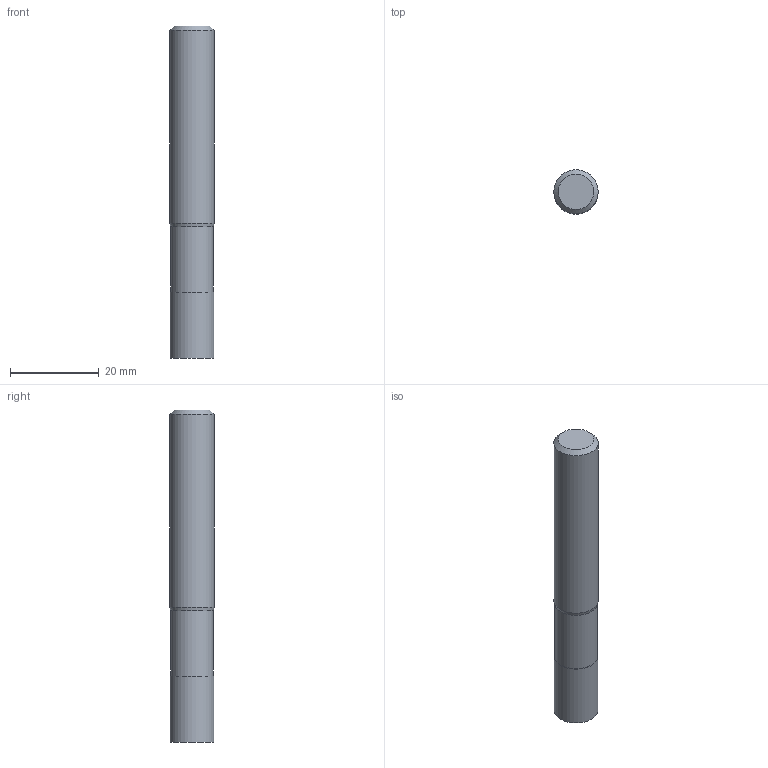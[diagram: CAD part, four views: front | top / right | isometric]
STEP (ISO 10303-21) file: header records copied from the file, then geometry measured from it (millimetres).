
FILE_DESCRIPTION((''),'2;1');
FILE_NAME('C:\Users\nsx150\AppData\Local\Temp\Mastercam 2021\EUJSUNXURU\TEMP.step','2021-04-22T10:29:53',(''),(''),'STEP Write','Mastercam 2021 ... CNC Software, Inc.','');
FILE_SCHEMA(('AUTOMOTIVE_DESIGN'));
Length unit declared in the file: millimetre
Products named in the file (1): None
Bounding box: 10 x 10 x 75 mm (x, y, z)
Volume: 5782.2 mm3; surface area: 2624.4 mm2
Topology: 2 solids, 2 shells, 9 faces, 12 edges, 7 vertices
Faces by surface type: plane 4, cylinder 3, cone 2
Full cylindrical faces by diameter (mm): 9.7 x1, 9.9 x1, 10 x1
Entity records: 211 total; most frequent: DIRECTION 36, CARTESIAN_POINT 25, AXIS2_PLACEMENT_3D 18, ORIENTED_EDGE 14, EDGE_LOOP 14, STYLED_ITEM 12, ADVANCED_FACE 9, FACE_BOUND 8
